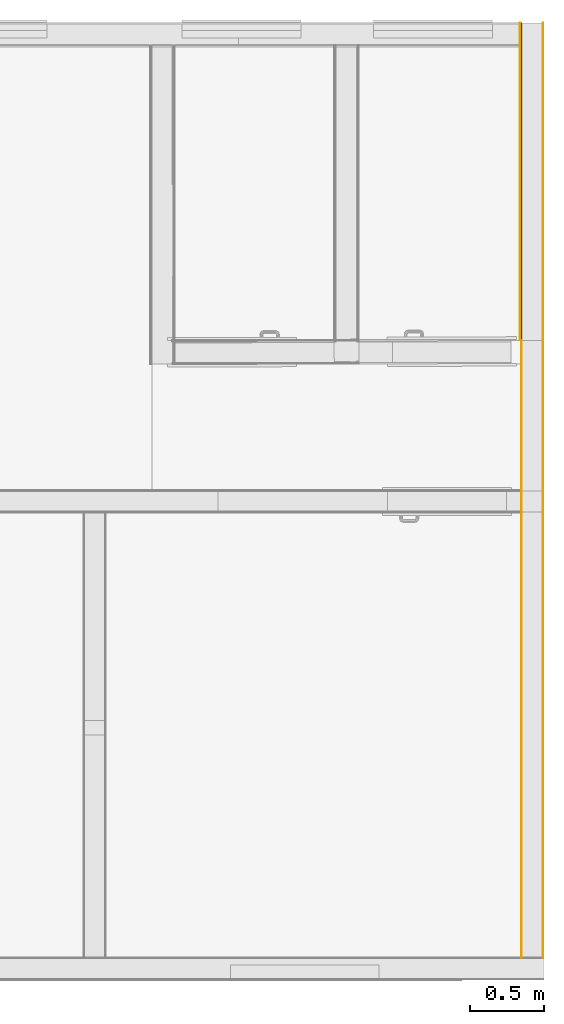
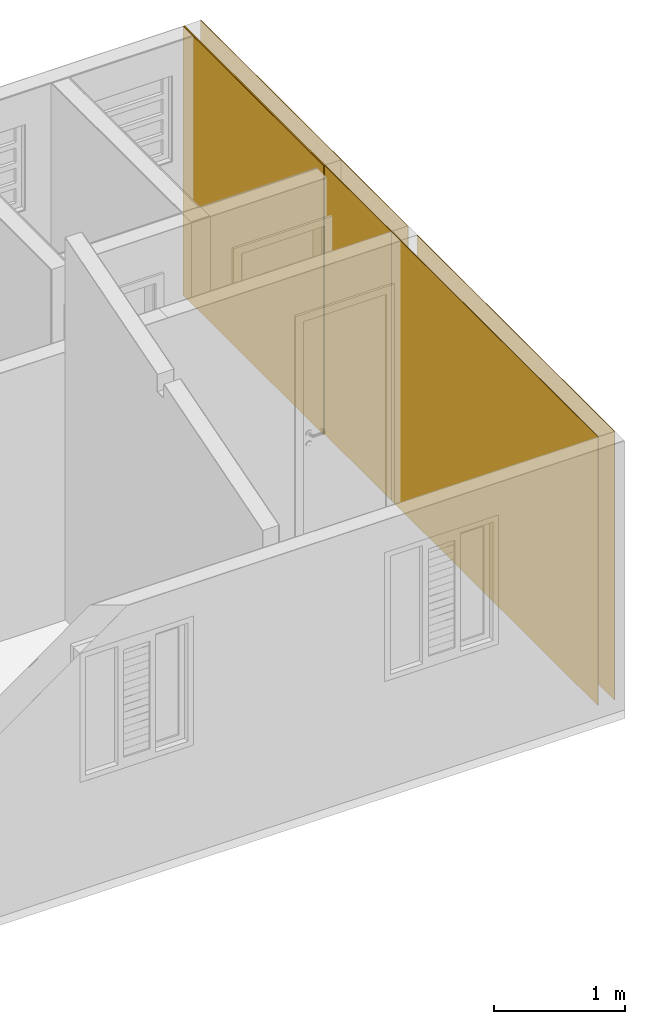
# One storey, part 10 of 11: 7 coverings, 3 elements without a shape of their own.
"""IFC2X3 building model written with IfcOpenShell, lengths in millimetres."""

from ifc_helpers import new_model, entity, si_unit, converted_unit, derived_unit, money_unit, direction, frame, origin_with_axes, place, context, subcontext, project, spatial, polyline, outline, extrude, boolean, faceted_brep, material, type_object, element, aggregate, save


model = new_model("IFC2X3")

# Units and contexts
model_context = context("Model", 3, precision=0.01, world=origin_with_axes(), true_north=direction((0.0, 1.0)))
body_context = subcontext(model_context, "Body", "Model", "MODEL_VIEW")
ifc_project = project(units=[si_unit("LENGTHUNIT", "METRE", prefix="MILLI"), si_unit("AREAUNIT", "SQUARE_METRE"), si_unit("VOLUMEUNIT", "CUBIC_METRE"), converted_unit("PLANEANGLEUNIT", "DEGREE", entity("IfcPlaneAngleMeasure", 0.0174532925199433), si_unit("PLANEANGLEUNIT", "RADIAN"), dimensions=[0, 0, 0, 0, 0, 0, 0]), money_unit("USD"), converted_unit("TIMEUNIT", "Year", entity("IfcTimeMeasure", 31557600.0), si_unit("TIMEUNIT", "SECOND"), dimensions=[0, 0, 1, 0, 0, 0, 0]), si_unit("MASSUNIT", "GRAM", prefix="KILO"), si_unit("THERMODYNAMICTEMPERATUREUNIT", "DEGREE_CELSIUS"), si_unit("LUMINOUSINTENSITYUNIT", "LUMEN"), si_unit("ENERGYUNIT", "JOULE", prefix="MEGA"), derived_unit("THERMALCONDUCTANCEUNIT", [(si_unit("POWERUNIT", "WATT"), 1), (si_unit("LENGTHUNIT", "METRE"), -1), (si_unit("THERMODYNAMICTEMPERATUREUNIT", "KELVIN"), -1)]), derived_unit("SPECIFICHEATCAPACITYUNIT", [(si_unit("ENERGYUNIT", "JOULE"), 1), (si_unit("MASSUNIT", "GRAM", prefix="KILO"), -1), (si_unit("THERMODYNAMICTEMPERATUREUNIT", "KELVIN"), -1)]), derived_unit("MASSDENSITYUNIT", [(si_unit("MASSUNIT", "GRAM", prefix="KILO"), 1), (si_unit("VOLUMEUNIT", "CUBIC_METRE"), -1)])], contexts=[model_context])

# Site, building, storey
site_placement = place(None, origin_with_axes())
site = spatial("IfcSite", under=ifc_project, at=site_placement, Name="Local", CompositionType="ELEMENT")
building_placement = place(site_placement, origin_with_axes())
building = spatial("IfcBuilding", under=site, at=building_placement, Name="Construção", CompositionType="ELEMENT")
storey_placement = place(building_placement, origin_with_axes())
storey = spatial("IfcBuildingStorey", under=building, at=storey_placement, Name="Pavimento Térreo", CompositionType="ELEMENT", Elevation=0.0)

# Wall, coverings
wall_type_1 = type_object("IfcWallType", Name="Alvenaria 140, Rebocada 2 Faces 150", PredefinedType="NOTDEFINED")
wall_1_placement = place(storey_placement, frame((8500.0, 149.9999999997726, 0.0), z_axis=(0.0, 0.0, 1.0), x_axis=(0.0, 1.0, 0.0)))
wall_1 = element("IfcWall", 1, at=wall_1_placement, inside=storey, type_object=wall_type_1, Name="Parede-03 - Trecho 3")
ifc_material_1 = material(Name="Reboco DEF")
covering_1_placement = place(wall_1_placement, origin_with_axes())
covering_1 = element("IfcCovering", 2, at=covering_1_placement, material=ifc_material_1, Name="Reboco DEF", PredefinedType="CLADDING", context=body_context, shape_type="CSG", body=[
    boolean("DIFFERENCE", boolean("DIFFERENCE", extrude(outline(polyline([(0.0, 0.0), (3145.00000000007, 0.0), (3145.00000000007, 5.000000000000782), (0.0, 5.000000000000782), (0.0, 0.0)])), origin_with_axes(), (0.0, 0.0, 1.0), 2500.0), faceted_brep([(3005.00000000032, 0.0, 2500.0), (3005.00000000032, 0.0, 2300.0), (3145.000000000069, 0.0, 2300.0), (3145.00000000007, 0.0, 2500.0), (3005.00000000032, 5.000000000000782, 2500.0), (3005.00000000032, 5.000000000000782, 2300.0), (3145.00000000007, 5.000000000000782, 2300.0), (3145.00000000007, 5.000000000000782, 2500.0)], [[[0, 1, 2, 3]], [[1, 0, 4, 5]], [[6, 2, 1, 5]], [[2, 6, 7, 3]], [[4, 0, 3, 7]], [[5, 4, 7, 6]]])), faceted_brep([(3005.00000000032, 5.000000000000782, 2500.0), (3005.00000000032, 5.000000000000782, 2300.0), (3145.00000000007, 5.000000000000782, 2300.0), (3145.00000000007, 5.000000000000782, 2500.0), (3005.00000000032, 140.0000000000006, 2500.0), (3005.00000000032, 140.0000000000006, 2300.0), (3145.00000000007, 140.0000000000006, 2300.0), (3145.00000000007, 140.0000000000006, 2500.0)], [[[0, 1, 2, 3]], [[0, 4, 5, 1]], [[6, 2, 1, 5]], [[6, 7, 3, 2]], [[4, 0, 3, 7]], [[4, 7, 6, 5]]])),
])
covering_2_placement = place(wall_1_placement, origin_with_axes())
covering_2 = element("IfcCovering", 3, at=covering_2_placement, material=ifc_material_1, Name="Reboco DEF", PredefinedType="CLADDING", context=body_context, shape_type="CSG", body=[
    boolean("DIFFERENCE", boolean("DIFFERENCE", extrude(outline(polyline([(0.0, 144.9999999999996), (3145.00000000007, 144.9999999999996), (3145.00000000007, 150.0000000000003), (0.0, 150.0000000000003), (0.0, 144.9999999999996)])), origin_with_axes(), (0.0, 0.0, 1.0), 2500.0), faceted_brep([(3005.00000000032, 0.0, 2500.0), (3005.00000000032, 0.0, 2300.0), (3145.000000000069, 0.0, 2300.0), (3145.00000000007, 0.0, 2500.0), (3005.00000000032, 5.000000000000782, 2500.0), (3005.00000000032, 5.000000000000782, 2300.0), (3145.00000000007, 5.000000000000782, 2300.0), (3145.00000000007, 5.000000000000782, 2500.0)], [[[0, 1, 2, 3]], [[1, 0, 4, 5]], [[6, 2, 1, 5]], [[2, 6, 7, 3]], [[4, 0, 3, 7]], [[5, 4, 7, 6]]])), faceted_brep([(3005.00000000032, 5.000000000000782, 2500.0), (3005.00000000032, 5.000000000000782, 2300.0), (3145.00000000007, 5.000000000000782, 2300.0), (3145.00000000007, 5.000000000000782, 2500.0), (3005.00000000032, 140.0000000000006, 2500.0), (3005.00000000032, 140.0000000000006, 2300.0), (3145.00000000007, 140.0000000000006, 2300.0), (3145.00000000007, 140.0000000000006, 2500.0)], [[[0, 1, 2, 3]], [[0, 4, 5, 1]], [[6, 2, 1, 5]], [[6, 7, 3, 2]], [[4, 0, 3, 7]], [[4, 7, 6, 5]]])),
])
aggregate(wall_1, [covering_1, covering_2])

wall_type_2 = type_object("IfcWallType", Name="Alvenaria 140, Rebocada + Azulejo 160", PredefinedType="NOTDEFINED")
wall_2_placement = place(storey_placement, frame((8500.0, 4309.999999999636, 0.0), z_axis=(0.0, 0.0, 1.0), x_axis=(0.0, 1.0, 0.0)))
wall_2 = element("IfcWall", 4, at=wall_2_placement, inside=storey, type_object=wall_type_2, Name="Parede-03 - Trecho 1")
covering_3_placement = place(wall_2_placement, origin_with_axes())
covering_3 = element("IfcCovering", 5, at=covering_3_placement, material=ifc_material_1, Name="Reboco DEF", PredefinedType="CLADDING", context=body_context, shape_type="SweptSolid", body=[
    extrude(outline(polyline([(0.0, 0.0), (2140.000000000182, 0.0), (2140.000000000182, 5.000000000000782), (0.0, 5.000000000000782), (0.0, 0.0)])), origin_with_axes(), (0.0, 0.0, 1.0), 2500.0),
])
ifc_material_2 = material(Name="Argamassa Colante DEF")
covering_4_placement = place(wall_2_placement, origin_with_axes())
covering_4 = element("IfcCovering", 6, at=covering_4_placement, material=ifc_material_2, Name="Argamassa Colante DEF", PredefinedType="CLADDING", context=body_context, shape_type="SweptSolid", body=[
    extrude(outline(polyline([(0.0, 144.9999999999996), (2140.000000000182, 144.9999999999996), (2140.000000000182, 154.9999999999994), (0.0, 154.9999999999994), (0.0, 144.9999999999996)])), origin_with_axes(), (0.0, 0.0, 1.0), 2500.0),
])

# Wall, covering
wall_3_placement = place(storey_placement, frame((8500.0, 3294.999999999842, 0.0), z_axis=(0.0, 0.0, 1.0), x_axis=(0.0, 1.0, 0.0)))
wall_3 = element("IfcWall", 7, at=wall_3_placement, inside=storey, type_object=wall_type_1, Name="Parede-03 - Trecho 2")
covering_5_placement = place(wall_3_placement, origin_with_axes())
covering_5 = element("IfcCovering", 8, at=covering_5_placement, material=ifc_material_1, Name="Reboco DEF", PredefinedType="CLADDING", context=body_context, shape_type="SweptSolid", body=[
    extrude(outline(polyline([(0.0, 0.0), (1014.999999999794, 0.0), (1014.999999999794, 5.000000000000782), (0.0, 5.000000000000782), (0.0, 0.0)])), origin_with_axes(), (0.0, 0.0, 1.0), 2500.0),
])

# Covering
ifc_material_3 = material(Name="Azulejo DEF")
covering_6_placement = place(wall_2_placement, origin_with_axes())
covering_6 = element("IfcCovering", 9, at=covering_6_placement, material=ifc_material_3, Name="Azulejo DEF", PredefinedType="CLADDING", context=body_context, shape_type="SweptSolid", body=[
    extrude(outline(polyline([(0.0, 154.9999999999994), (2140.000000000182, 154.9999999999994), (2140.000000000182, 160.0000000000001), (0.0, 160.0000000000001), (0.0, 154.9999999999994)])), origin_with_axes(), (0.0, 0.0, 1.0), 2500.0),
])

aggregate(wall_2, [covering_3, covering_4, covering_6])

covering_7_placement = place(wall_3_placement, origin_with_axes())
covering_7 = element("IfcCovering", 10, at=covering_7_placement, material=ifc_material_1, Name="Reboco DEF", PredefinedType="CLADDING", context=body_context, shape_type="SweptSolid", body=[
    extrude(outline(polyline([(0.0, 144.9999999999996), (1014.999999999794, 144.9999999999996), (1014.999999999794, 150.0000000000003), (0.0, 150.0000000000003), (0.0, 144.9999999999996)])), origin_with_axes(), (0.0, 0.0, 1.0), 2500.0),
])

aggregate(wall_3, [covering_5, covering_7])

save(model, "model.ifc")
